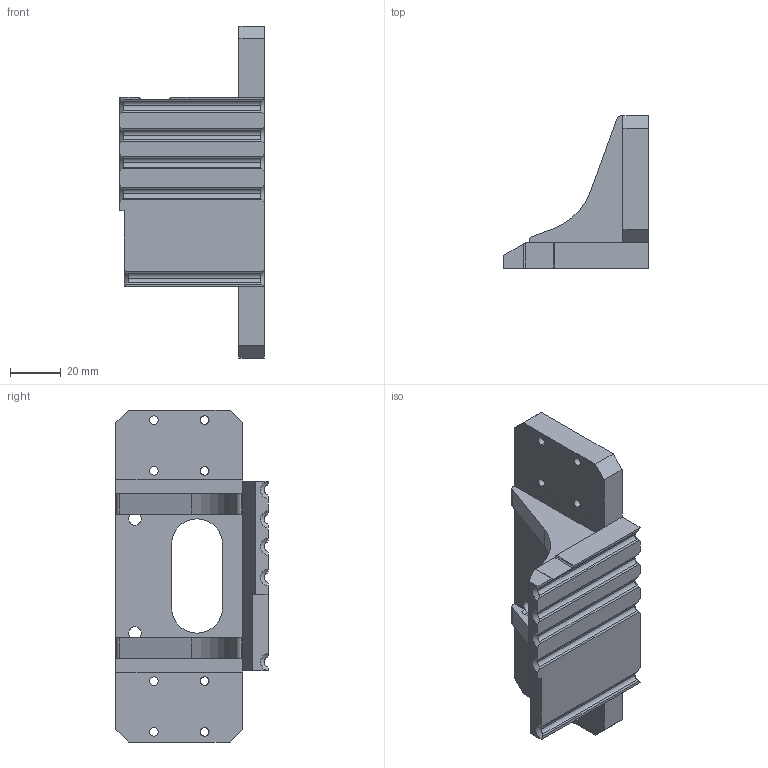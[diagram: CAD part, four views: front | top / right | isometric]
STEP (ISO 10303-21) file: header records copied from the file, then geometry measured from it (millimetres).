
FILE_DESCRIPTION (( 'STEP AP214' ), '1' );
FILE_NAME ('GZ30.22_V1气管夹紧块1.STEP', '2021-06-07T06:30:54', ( '微软中国' ), ( 'Microsoft' ), 'SwSTEP 2.0', 'SolidWorks 2017', '' );
FILE_SCHEMA (( 'AUTOMOTIVE_DESIGN' ));
Length unit declared in the file: millimetre
Products named in the file (1): GZ30.22_V1气管夹紧块1
Bounding box: 57 x 60 x 130.8 mm (x, y, z)
Volume: 103415 mm3; surface area: 31742.1 mm2
Topology: 3 solids, 3 shells, 144 faces, 387 edges, 257 vertices
Faces by surface type: plane 72, cylinder 59, cone 13
Entity records: 4731 total; most frequent: CARTESIAN_POINT 935, ORIENTED_EDGE 774, DIRECTION 760, EDGE_CURVE 387, AXIS2_PLACEMENT_3D 272, VERTEX_POINT 257, LINE 216, VECTOR 216
